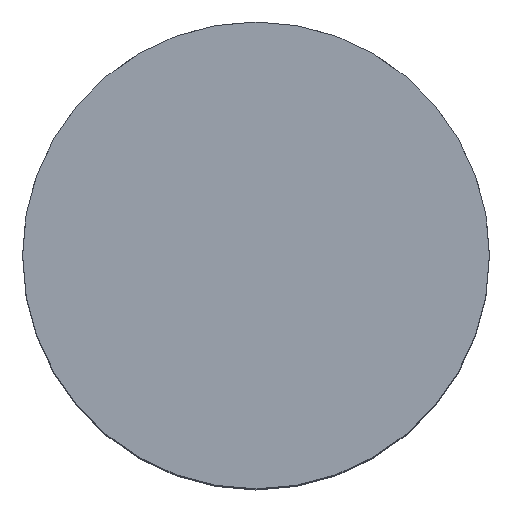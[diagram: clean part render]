
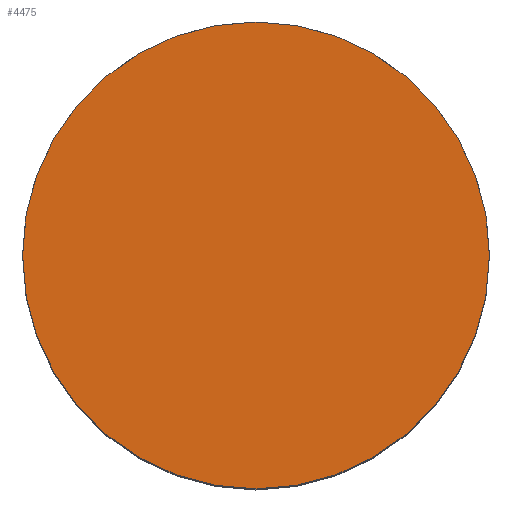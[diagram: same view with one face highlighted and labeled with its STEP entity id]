
A CAD part, top view. The second image highlights one B-rep face of the part: STEP entity #4475.
In plain terms, the highlighted planar face has unit normal (0, 0, 1).
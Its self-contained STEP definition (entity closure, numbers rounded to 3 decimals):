
#1726=CARTESIAN_POINT('',(0.,0.,35.));
#1727=DIRECTION('',(0.,0.,-1.));
#1728=DIRECTION('',(-1.,0.,0.));
#1729=AXIS2_PLACEMENT_3D('',#1726,#1727,#1728);
#1731=CARTESIAN_POINT('',(0.,0.,35.));
#1732=DIRECTION('',(0.,0.,-1.));
#1733=DIRECTION('',(1.,0.,0.));
#1734=AXIS2_PLACEMENT_3D('',#1731,#1732,#1733);
#2180=CARTESIAN_POINT('',(18.,0.,35.));
#2181=VERTEX_POINT('',#2180);
#2182=CARTESIAN_POINT('',(-18.,0.,35.));
#2183=VERTEX_POINT('',#2182);
#4466=CARTESIAN_POINT('',(0.,0.,35.));
#4467=DIRECTION('',(0.,0.,1.));
#4468=DIRECTION('',(1.,0.,0.));
#4469=AXIS2_PLACEMENT_3D('',#4466,#4467,#4468);
#4470=PLANE('',#4469);
#4471=ORIENTED_EDGE('',*,*,#4429,.T.);
#4472=ORIENTED_EDGE('',*,*,#4446,.T.);
#4473=EDGE_LOOP('',(#4471,#4472));
#4474=FACE_OUTER_BOUND('',#4473,.F.);
#1730=CIRCLE('',#1729,18.);
#1735=CIRCLE('',#1734,18.);
#4429=EDGE_CURVE('',#2183,#2181,#1730,.T.);
#4446=EDGE_CURVE('',#2181,#2183,#1735,.T.);
#4475=ADVANCED_FACE('',(#4474),#4470,.T.);
